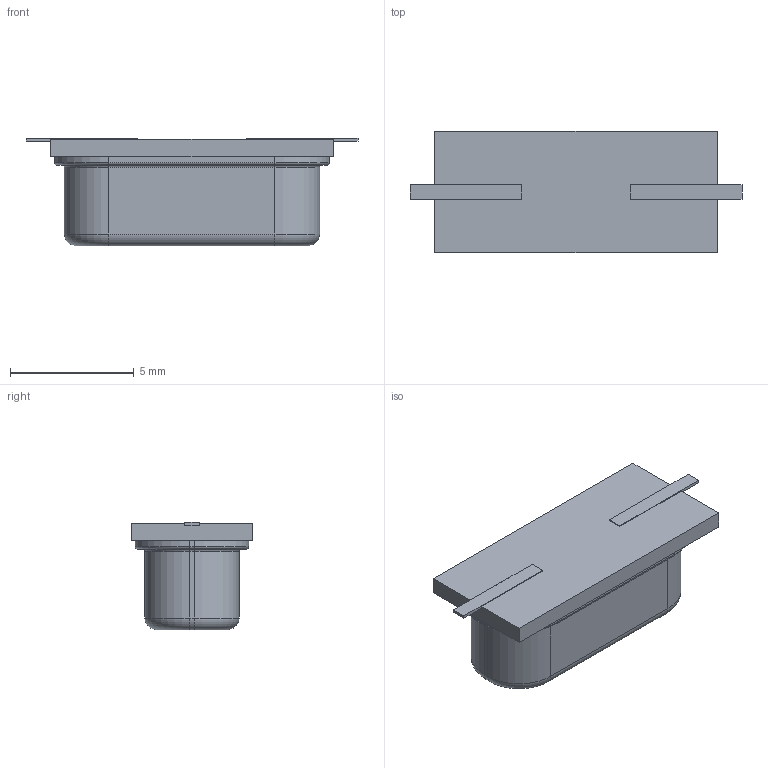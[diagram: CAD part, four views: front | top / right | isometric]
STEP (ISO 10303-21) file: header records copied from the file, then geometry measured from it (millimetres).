
FILE_DESCRIPTION(('CAx-IF Rec.Pracs.---Model Styling and Organization---1.5---2016-08-15','CAx-IF Rec.Pracs.---Geometric and Assembly Validation Properties---4.4---2016-08-17','CAx-IF Rec.Pracs.---User Defined Attributes---1.5---2016-08-15','CAx-IF Rec.Pracs.---External References---2.1---2005-01-19'),'2;1');
FILE_NAME('698234.step','2024-02-07T16:37:02',('Unspecified'),('Unspecified'),'CAD Exchanger 3.10.2 (cadexchanger.com)','Unspecified','');
FILE_SCHEMA(('AUTOMOTIVE_DESIGN { 1 0 10303 214 1 1 1 1 }'));
Length unit declared in the file: millimetre
Products named in the file (1): LFXTAL003237Reel
Bounding box: 13.4 x 4.9 x 4.34 mm (x, y, z)
Volume: 172.7 mm3; surface area: 221.9 mm2
Topology: 1 solids, 1 shells, 60 faces, 144 edges, 88 vertices
Faces by surface type: plane 28, cylinder 20, torus 12
Entity records: 2219 total; most frequent: DIRECTION 318, CARTESIAN_POINT 293, ORIENTED_EDGE 288, EDGE_CURVE 144, AXIS2_PLACEMENT_3D 113, LINE 92, VECTOR 92, VERTEX_POINT 88
